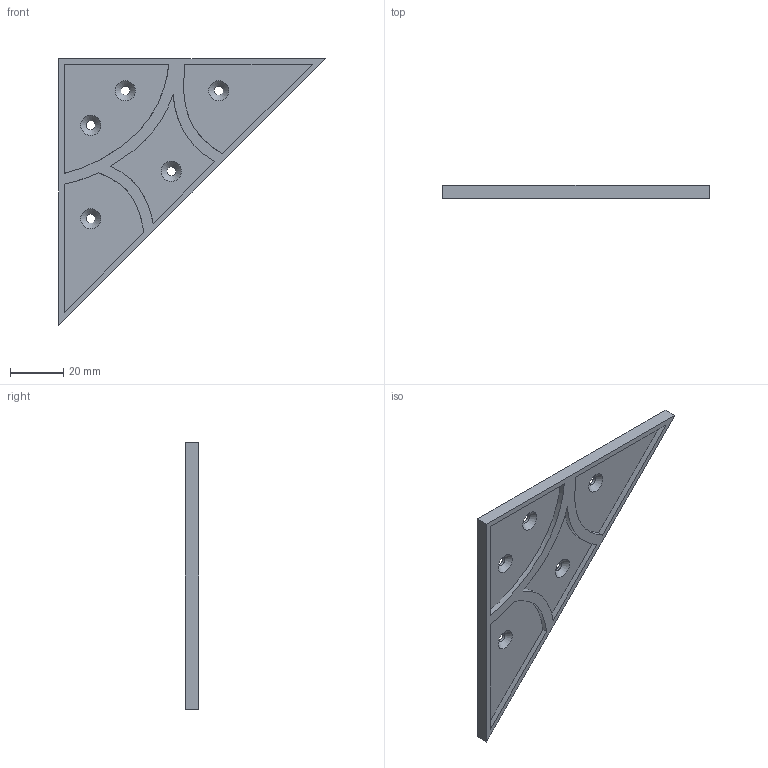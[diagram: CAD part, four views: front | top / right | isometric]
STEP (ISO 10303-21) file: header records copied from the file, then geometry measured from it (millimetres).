
FILE_DESCRIPTION(/* description */ (''),/* implementation_level */ '2;1');
FILE_NAME(/* name */ 'rinforzo angolo v2.step',/* time_stamp */ '2024-01-09T12:01:21+01:00',/* author */ (''),/* organization */ (''),/* preprocessor_version */ 'ST-DEVELOPER v20',/* originating_system */ 'Autodesk Translation Framework v12.14.0.127',/* authorisation */ '');
FILE_SCHEMA (('AUTOMOTIVE_DESIGN { 1 0 10303 214 3 1 1 }'));
Length unit declared in the file: millimetre
Products named in the file (1): rinforzo angolo
Bounding box: 100 x 5 x 100 mm (x, y, z)
Volume: 17057.7 mm3; surface area: 12813.6 mm2
Topology: 1 solids, 1 shells, 33 faces, 76 edges, 49 vertices
Faces by surface type: plane 16, bspline 7, cone 5, cylinder 5
Full cylindrical faces by diameter (mm): 3.5 x5
Entity records: 1302 total; most frequent: CARTESIAN_POINT 554, ORIENTED_EDGE 152, DIRECTION 120, EDGE_CURVE 76, VERTEX_POINT 49, EDGE_LOOP 47, AXIS2_PLACEMENT_3D 42, LINE 36
